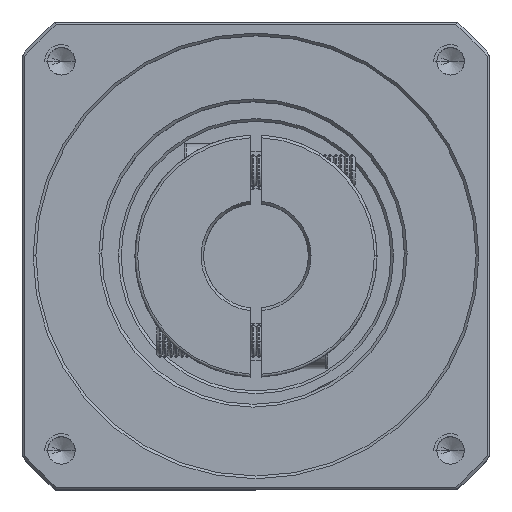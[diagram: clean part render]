
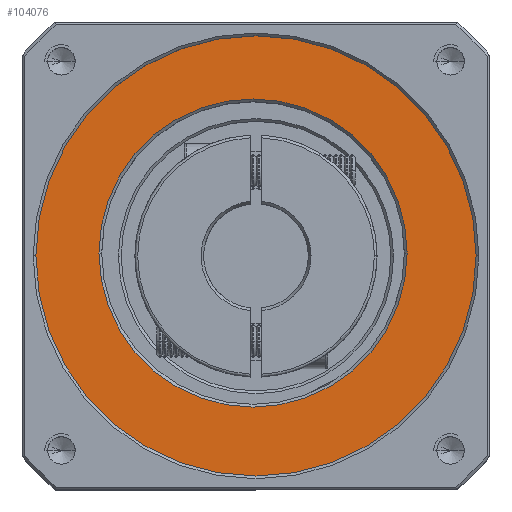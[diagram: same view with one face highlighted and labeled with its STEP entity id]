
A CAD part, top view. The second image highlights one B-rep face of the part: STEP entity #104076.
In plain terms, the highlighted planar face has unit normal (0, 0, 1).
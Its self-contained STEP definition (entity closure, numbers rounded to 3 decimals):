
#443 = VERTEX_POINT ( 'NONE', #29771 ) ;
#478 = EDGE_LOOP ( 'NONE', ( #115749, #66428 ) ) ;
#8847 = CIRCLE ( 'NONE', #17145, 28. ) ;
#8991 = CARTESIAN_POINT ( 'NONE',  ( -37.067, 68.253, -61.843 ) ) ;
#9531 = DIRECTION ( 'NONE',  ( 1., 0., 0. ) ) ;
#10179 = FACE_OUTER_BOUND ( 'NONE', #82521, .T. ) ;
#11146 = AXIS2_PLACEMENT_3D ( 'NONE', #127254, #68383, #9531 ) ;
#15206 = DIRECTION ( 'NONE',  ( 0., 0., -1. ) ) ;
#17145 = AXIS2_PLACEMENT_3D ( 'NONE', #73979, #15206, #83811 ) ;
#18948 = DIRECTION ( 'NONE',  ( 1., 0., 0. ) ) ;
#21653 = CARTESIAN_POINT ( 'NONE',  ( -9.609, 68.787, -61.843 ) ) ;
#27413 = CARTESIAN_POINT ( 'NONE',  ( -65.609, 68.787, -61.843 ) ) ;
#29771 = CARTESIAN_POINT ( 'NONE',  ( -77.067, 68.253, -61.843 ) ) ;
#30428 = VERTEX_POINT ( 'NONE', #27413 ) ;
#31491 = ORIENTED_EDGE ( 'NONE', *, *, #98375, .T. ) ;
#33835 = DIRECTION ( 'NONE',  ( 0., 0., -1. ) ) ;
#36379 = FACE_BOUND ( 'NONE', #478, .T. ) ;
#41246 = CARTESIAN_POINT ( 'NONE',  ( -37.067, 68.253, -61.843 ) ) ;
#42642 = AXIS2_PLACEMENT_3D ( 'NONE', #41246, #109988, #51141 ) ;
#48434 = CARTESIAN_POINT ( 'NONE',  ( 2.933, 68.253, -61.843 ) ) ;
#50657 = AXIS2_PLACEMENT_3D ( 'NONE', #8991, #77682, #18948 ) ;
#51141 = DIRECTION ( 'NONE',  ( 1., 0., 0. ) ) ;
#51579 = VERTEX_POINT ( 'NONE', #48434 ) ;
#61724 = EDGE_CURVE ( 'NONE', #443, #51579, #124924, .T. ) ;
#63888 = EDGE_CURVE ( 'NONE', #30428, #116428, #96338, .T. ) ;
#66428 = ORIENTED_EDGE ( 'NONE', *, *, #63888, .T. ) ;
#68383 = DIRECTION ( 'NONE',  ( 0., 0., 1. ) ) ;
#73979 = CARTESIAN_POINT ( 'NONE',  ( -37.609, 68.787, -61.843 ) ) ;
#77682 = DIRECTION ( 'NONE',  ( 0., 0., 1. ) ) ;
#79834 = PLANE ( 'NONE',  #42642 ) ;
#82521 = EDGE_LOOP ( 'NONE', ( #31491, #109710 ) ) ;
#83811 = DIRECTION ( 'NONE',  ( 1., 0., 0. ) ) ;
#91237 = AXIS2_PLACEMENT_3D ( 'NONE', #92566, #33835, #102525 ) ;
#92566 = CARTESIAN_POINT ( 'NONE',  ( -37.609, 68.787, -61.843 ) ) ;
#96338 = CIRCLE ( 'NONE', #91237, 28. ) ;
#98375 = EDGE_CURVE ( 'NONE', #51579, #443, #100041, .T. ) ;
#100041 = CIRCLE ( 'NONE', #11146, 40. ) ;
#102525 = DIRECTION ( 'NONE',  ( 1., 0., 0. ) ) ;
#104076 = ADVANCED_FACE ( 'NONE', ( #10179, #36379 ), #79834, .T. ) ;
#109264 = EDGE_CURVE ( 'NONE', #116428, #30428, #8847, .T. ) ;
#109710 = ORIENTED_EDGE ( 'NONE', *, *, #61724, .T. ) ;
#109988 = DIRECTION ( 'NONE',  ( 0., 0., 1. ) ) ;
#115749 = ORIENTED_EDGE ( 'NONE', *, *, #109264, .T. ) ;
#116428 = VERTEX_POINT ( 'NONE', #21653 ) ;
#124924 = CIRCLE ( 'NONE', #50657, 40. ) ;
#127254 = CARTESIAN_POINT ( 'NONE',  ( -37.067, 68.253, -61.843 ) ) ;
